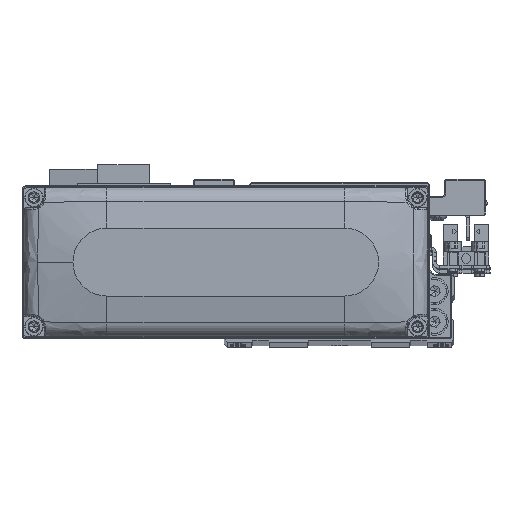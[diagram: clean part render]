
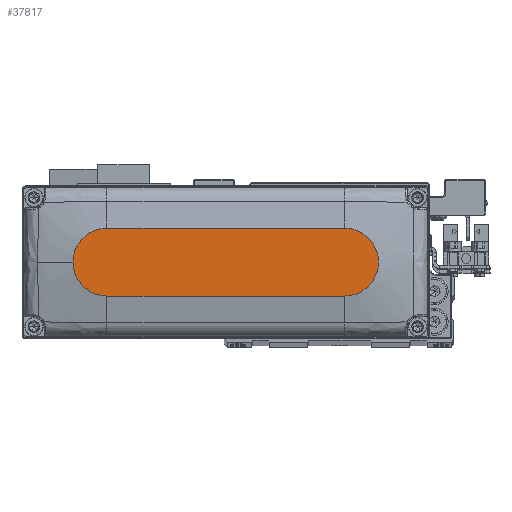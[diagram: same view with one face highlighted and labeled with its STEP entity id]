
A CAD part, top view. The second image highlights one B-rep face of the part: STEP entity #37817.
In plain terms, the highlighted planar face has unit normal (0, 0, 1).
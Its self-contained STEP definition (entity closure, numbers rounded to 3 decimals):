
#2272 = CARTESIAN_POINT ( 'NONE',  ( -35., -10., 28. ) ) ;
#3556 = DIRECTION ( 'NONE',  ( 0., 0., 1. ) ) ;
#5027 = ORIENTED_EDGE ( 'NONE', *, *, #23602, .T. ) ;
#5597 = EDGE_CURVE ( 'NONE', #32267, #9039, #30984, .T. ) ;
#6021 = DIRECTION ( 'NONE',  ( 1., 0., 0. ) ) ;
#6854 = AXIS2_PLACEMENT_3D ( 'NONE', #24615, #37337, #8694 ) ;
#8083 = DIRECTION ( 'NONE',  ( 1., 0., 0. ) ) ;
#8187 = CIRCLE ( 'NONE', #31583, 10. ) ;
#8219 = VECTOR ( 'NONE', #25244, 1000. ) ;
#8694 = DIRECTION ( 'NONE',  ( 1., 0., 0. ) ) ;
#9039 = VERTEX_POINT ( 'NONE', #13848 ) ;
#11234 = PLANE ( 'NONE',  #11906 ) ;
#11480 = VERTEX_POINT ( 'NONE', #37080 ) ;
#11640 = CARTESIAN_POINT ( 'NONE',  ( -35., -10., 28. ) ) ;
#11906 = AXIS2_PLACEMENT_3D ( 'NONE', #24010, #36736, #8083 ) ;
#11988 = ORIENTED_EDGE ( 'NONE', *, *, #14656, .T. ) ;
#12478 = CARTESIAN_POINT ( 'NONE',  ( -35., 10., 28. ) ) ;
#13048 = CIRCLE ( 'NONE', #36414, 10. ) ;
#13098 = EDGE_LOOP ( 'NONE', ( #5027, #15376, #28242, #11988, #38755 ) ) ;
#13264 = EDGE_CURVE ( 'NONE', #31320, #11480, #13048, .T. ) ;
#13848 = CARTESIAN_POINT ( 'NONE',  ( 35., -10., 28. ) ) ;
#14656 = EDGE_CURVE ( 'NONE', #9039, #31320, #8187, .T. ) ;
#15079 = DIRECTION ( 'NONE',  ( 1., 0., 0. ) ) ;
#15376 = ORIENTED_EDGE ( 'NONE', *, *, #20719, .T. ) ;
#16373 = DIRECTION ( 'NONE',  ( 1., 0., 0. ) ) ;
#18210 = VERTEX_POINT ( 'NONE', #40655 ) ;
#20719 = EDGE_CURVE ( 'NONE', #18210, #32267, #24910, .T. ) ;
#21964 = CARTESIAN_POINT ( 'NONE',  ( 35., 0., 28. ) ) ;
#21995 = VECTOR ( 'NONE', #15079, 1000. ) ;
#23602 = EDGE_CURVE ( 'NONE', #11480, #18210, #41109, .T. ) ;
#24010 = CARTESIAN_POINT ( 'NONE',  ( 0., 0., 28. ) ) ;
#24615 = CARTESIAN_POINT ( 'NONE',  ( -35., 0., 28. ) ) ;
#24910 = CIRCLE ( 'NONE', #6854, 10. ) ;
#25244 = DIRECTION ( 'NONE',  ( -1., 0., 0. ) ) ;
#28242 = ORIENTED_EDGE ( 'NONE', *, *, #5597, .T. ) ;
#30978 = CARTESIAN_POINT ( 'NONE',  ( 45., 0., 28. ) ) ;
#30984 = LINE ( 'NONE', #2272, #21995 ) ;
#31320 = VERTEX_POINT ( 'NONE', #30978 ) ;
#31583 = AXIS2_PLACEMENT_3D ( 'NONE', #32254, #3556, #16373 ) ;
#32254 = CARTESIAN_POINT ( 'NONE',  ( 35., 0., 28. ) ) ;
#32267 = VERTEX_POINT ( 'NONE', #11640 ) ;
#34707 = DIRECTION ( 'NONE',  ( 0., 0., 1. ) ) ;
#36414 = AXIS2_PLACEMENT_3D ( 'NONE', #21964, #34707, #6021 ) ;
#36736 = DIRECTION ( 'NONE',  ( 0., 0., 1. ) ) ;
#37080 = CARTESIAN_POINT ( 'NONE',  ( 35., 10., 28. ) ) ;
#37337 = DIRECTION ( 'NONE',  ( 0., 0., 1. ) ) ;
#37817 = ADVANCED_FACE ( 'NONE', ( #39866 ), #11234, .T. ) ;
#38755 = ORIENTED_EDGE ( 'NONE', *, *, #13264, .T. ) ;
#39866 = FACE_OUTER_BOUND ( 'NONE', #13098, .T. ) ;
#40655 = CARTESIAN_POINT ( 'NONE',  ( -35., 10., 28. ) ) ;
#41109 = LINE ( 'NONE', #12478, #8219 ) ;
